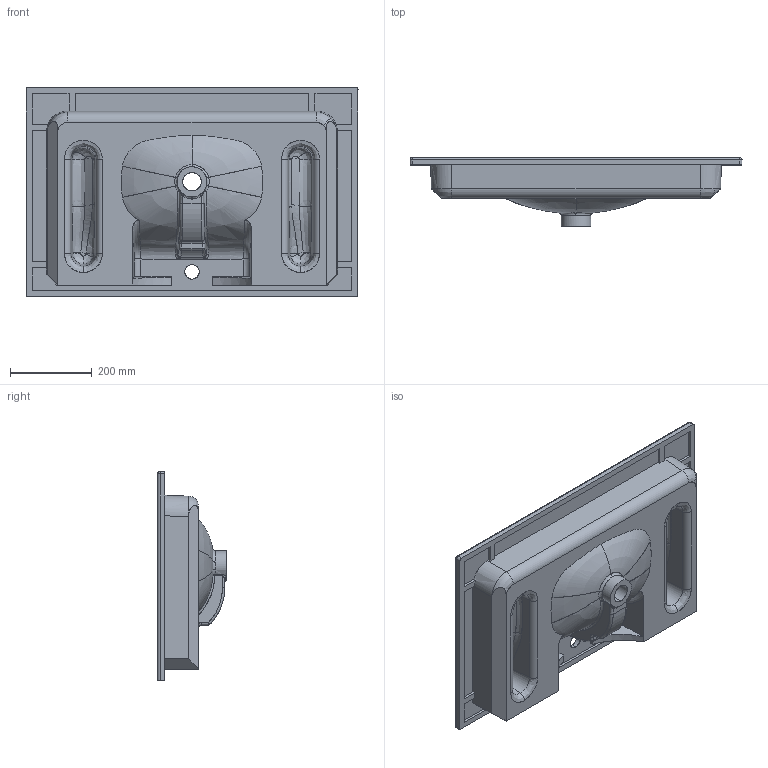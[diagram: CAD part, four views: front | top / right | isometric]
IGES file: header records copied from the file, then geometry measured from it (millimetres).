
Start section: SolidWorks IGES file using NURBS representation for surfaces
Global section: file name: C:\Users\User\Desktop\Soft\lavabi definitivi soft 51 m\soft 810 x 515\definitivo soft 810 x 515.IGS; native system: SolidWorks 2016; preprocessor: SolidWorks 2016; author: User; date: 200629.173257; units: millimetre
Bounding box: 810 x 168 x 510 mm (x, y, z)
Surface area: 1221392 mm2 (no closed solid volume)
Topology: 0 solids, 0 shells, 204 faces, 3060 edges, 3052 vertices
Faces by surface type: bspline 204
